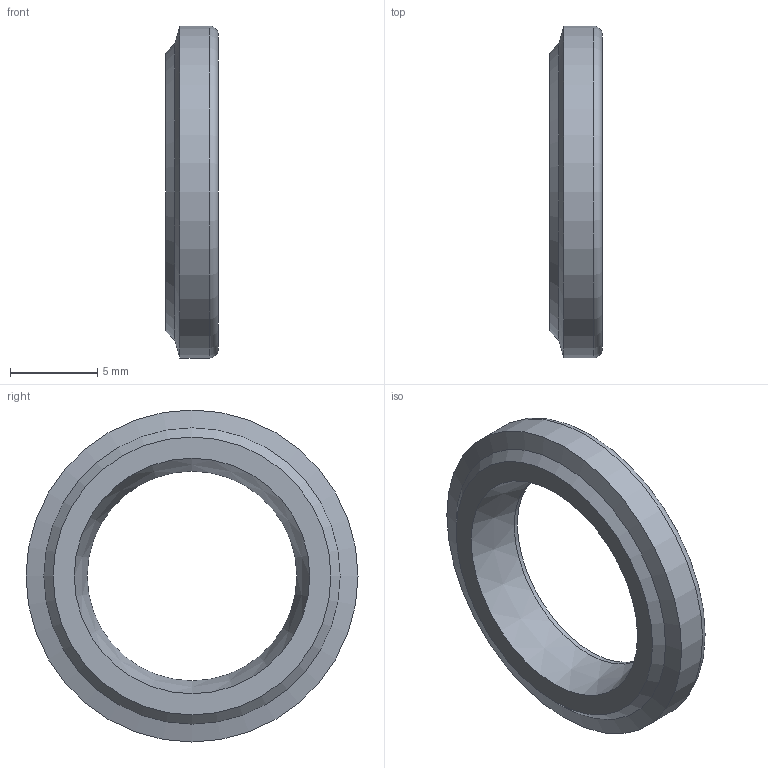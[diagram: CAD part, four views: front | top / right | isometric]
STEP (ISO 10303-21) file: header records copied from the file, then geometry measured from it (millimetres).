
FILE_DESCRIPTION(('STEP AP203'),'1');
FILE_NAME('D:/Desktop/BOSCH CAD/CBX/R133181210.step','2022-02-17T07:15:55',(' '),(' '),'Spatial InterOp 3D',' ',' ');
FILE_SCHEMA(('CONFIG_CONTROL_DESIGN'));
Length unit declared in the file: millimetre
Products named in the file (1): 1
Bounding box: 3 x 19 x 19 mm (x, y, z)
Volume: 412 mm3; surface area: 603.2 mm2
Topology: 1 solids, 1 shells, 12 faces, 20 edges, 12 vertices
Faces by surface type: cone 4, plane 4, cylinder 3, torus 1
Full cylindrical faces by diameter (mm): 12 x1, 13.7 x1, 19 x1
Entity records: 292 total; most frequent: DIRECTION 50, CARTESIAN_POINT 37, AXIS2_PLACEMENT_3D 25, EDGE_LOOP 24, ORIENTED_EDGE 24, FACE_OUTER_BOUND 16, ADVANCED_FACE 12, EDGE_CURVE 12
